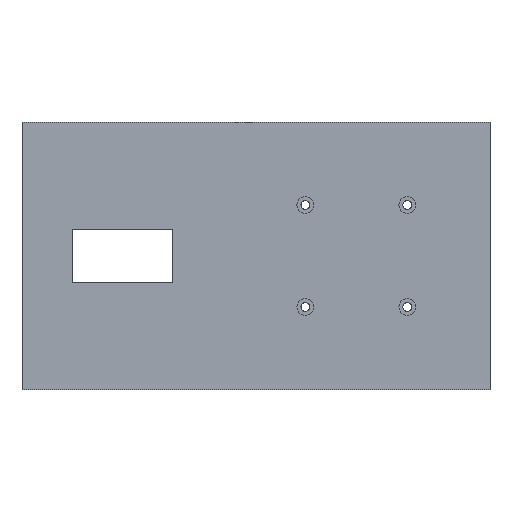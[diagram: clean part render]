
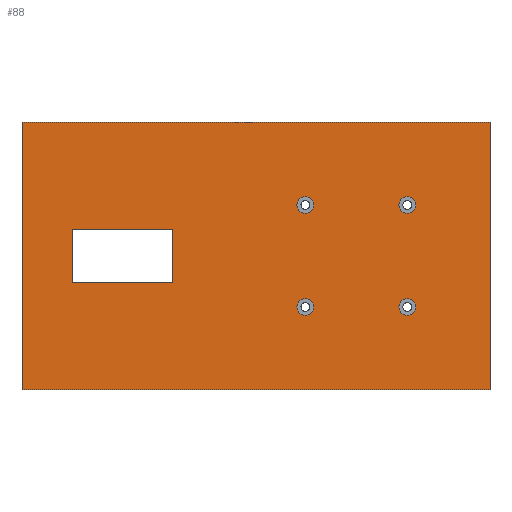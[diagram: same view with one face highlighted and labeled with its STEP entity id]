
A CAD part, top view. The second image highlights one B-rep face of the part: STEP entity #88.
In plain terms, the highlighted planar face has unit normal (0, 0, 1).
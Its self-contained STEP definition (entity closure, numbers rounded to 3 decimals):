
#24 = VERTEX_POINT('',#25);
#25 = CARTESIAN_POINT('',(-70.,-40.,52.));
#40 = VERTEX_POINT('',#41);
#41 = CARTESIAN_POINT('',(-70.,40.,52.));
#47 = EDGE_CURVE('',#24,#40,#48,.T.);
#48 = LINE('',#49,#50);
#49 = CARTESIAN_POINT('',(-70.,-40.,52.));
#50 = VECTOR('',#51,1.);
#51 = DIRECTION('',(0.,1.,0.));
#70 = EDGE_CURVE('',#24,#71,#73,.T.);
#71 = VERTEX_POINT('',#72);
#72 = CARTESIAN_POINT('',(70.,-40.,52.));
#73 = LINE('',#74,#75);
#74 = CARTESIAN_POINT('',(-70.,-40.,52.));
#75 = VECTOR('',#76,1.);
#76 = DIRECTION('',(1.,0.,0.));
#88 = ADVANCED_FACE('',(#89,#107,#118,#129,#163,#174),#185,.T.);
#89 = FACE_BOUND('',#90,.T.);
#90 = EDGE_LOOP('',(#91,#92,#93,#101));
#91 = ORIENTED_EDGE('',*,*,#47,.F.);
#92 = ORIENTED_EDGE('',*,*,#70,.T.);
#93 = ORIENTED_EDGE('',*,*,#94,.T.);
#94 = EDGE_CURVE('',#71,#95,#97,.T.);
#95 = VERTEX_POINT('',#96);
#96 = CARTESIAN_POINT('',(70.,40.,52.));
#97 = LINE('',#98,#99);
#98 = CARTESIAN_POINT('',(70.,-40.,52.));
#99 = VECTOR('',#100,1.);
#100 = DIRECTION('',(0.,1.,0.));
#101 = ORIENTED_EDGE('',*,*,#102,.F.);
#102 = EDGE_CURVE('',#40,#95,#103,.T.);
#103 = LINE('',#104,#105);
#104 = CARTESIAN_POINT('',(-70.,40.,52.));
#105 = VECTOR('',#106,1.);
#106 = DIRECTION('',(1.,0.,0.));
#107 = FACE_BOUND('',#108,.T.);
#108 = EDGE_LOOP('',(#109));
#109 = ORIENTED_EDGE('',*,*,#110,.F.);
#110 = EDGE_CURVE('',#111,#111,#113,.T.);
#111 = VERTEX_POINT('',#112);
#112 = CARTESIAN_POINT('',(17.25,-15.25,52.));
#113 = CIRCLE('',#114,2.5);
#114 = AXIS2_PLACEMENT_3D('',#115,#116,#117);
#115 = CARTESIAN_POINT('',(14.75,-15.25,52.));
#116 = DIRECTION('',(0.,0.,1.));
#117 = DIRECTION('',(1.,0.,0.));
#118 = FACE_BOUND('',#119,.T.);
#119 = EDGE_LOOP('',(#120));
#120 = ORIENTED_EDGE('',*,*,#121,.F.);
#121 = EDGE_CURVE('',#122,#122,#124,.T.);
#122 = VERTEX_POINT('',#123);
#123 = CARTESIAN_POINT('',(47.75,-15.25,52.));
#124 = CIRCLE('',#125,2.5);
#125 = AXIS2_PLACEMENT_3D('',#126,#127,#128);
#126 = CARTESIAN_POINT('',(45.25,-15.25,52.));
#127 = DIRECTION('',(0.,0.,1.));
#128 = DIRECTION('',(1.,0.,0.));
#129 = FACE_BOUND('',#130,.T.);
#130 = EDGE_LOOP('',(#131,#141,#149,#157));
#131 = ORIENTED_EDGE('',*,*,#132,.T.);
#132 = EDGE_CURVE('',#133,#135,#137,.T.);
#133 = VERTEX_POINT('',#134);
#134 = CARTESIAN_POINT('',(-25.,-8.,52.));
#135 = VERTEX_POINT('',#136);
#136 = CARTESIAN_POINT('',(-55.,-8.,52.));
#137 = LINE('',#138,#139);
#138 = CARTESIAN_POINT('',(-62.5,-8.,52.));
#139 = VECTOR('',#140,1.);
#140 = DIRECTION('',(-1.,0.,0.));
#141 = ORIENTED_EDGE('',*,*,#142,.T.);
#142 = EDGE_CURVE('',#135,#143,#145,.T.);
#143 = VERTEX_POINT('',#144);
#144 = CARTESIAN_POINT('',(-55.,8.,52.));
#145 = LINE('',#146,#147);
#146 = CARTESIAN_POINT('',(-55.,-24.,52.));
#147 = VECTOR('',#148,1.);
#148 = DIRECTION('',(0.,1.,0.));
#149 = ORIENTED_EDGE('',*,*,#150,.F.);
#150 = EDGE_CURVE('',#151,#143,#153,.T.);
#151 = VERTEX_POINT('',#152);
#152 = CARTESIAN_POINT('',(-25.,8.,52.));
#153 = LINE('',#154,#155);
#154 = CARTESIAN_POINT('',(-62.5,8.,52.));
#155 = VECTOR('',#156,1.);
#156 = DIRECTION('',(-1.,0.,0.));
#157 = ORIENTED_EDGE('',*,*,#158,.F.);
#158 = EDGE_CURVE('',#133,#151,#159,.T.);
#159 = LINE('',#160,#161);
#160 = CARTESIAN_POINT('',(-25.,-24.,52.));
#161 = VECTOR('',#162,1.);
#162 = DIRECTION('',(0.,1.,0.));
#163 = FACE_BOUND('',#164,.T.);
#164 = EDGE_LOOP('',(#165));
#165 = ORIENTED_EDGE('',*,*,#166,.F.);
#166 = EDGE_CURVE('',#167,#167,#169,.T.);
#167 = VERTEX_POINT('',#168);
#168 = CARTESIAN_POINT('',(17.25,15.25,52.));
#169 = CIRCLE('',#170,2.5);
#170 = AXIS2_PLACEMENT_3D('',#171,#172,#173);
#171 = CARTESIAN_POINT('',(14.75,15.25,52.));
#172 = DIRECTION('',(0.,0.,1.));
#173 = DIRECTION('',(1.,0.,0.));
#174 = FACE_BOUND('',#175,.T.);
#175 = EDGE_LOOP('',(#176));
#176 = ORIENTED_EDGE('',*,*,#177,.F.);
#177 = EDGE_CURVE('',#178,#178,#180,.T.);
#178 = VERTEX_POINT('',#179);
#179 = CARTESIAN_POINT('',(47.75,15.25,52.));
#180 = CIRCLE('',#181,2.5);
#181 = AXIS2_PLACEMENT_3D('',#182,#183,#184);
#182 = CARTESIAN_POINT('',(45.25,15.25,52.));
#183 = DIRECTION('',(0.,0.,1.));
#184 = DIRECTION('',(1.,0.,0.));
#185 = PLANE('',#186);
#186 = AXIS2_PLACEMENT_3D('',#187,#188,#189);
#187 = CARTESIAN_POINT('',(-70.,-40.,52.));
#188 = DIRECTION('',(0.,0.,1.));
#189 = DIRECTION('',(1.,0.,0.));
